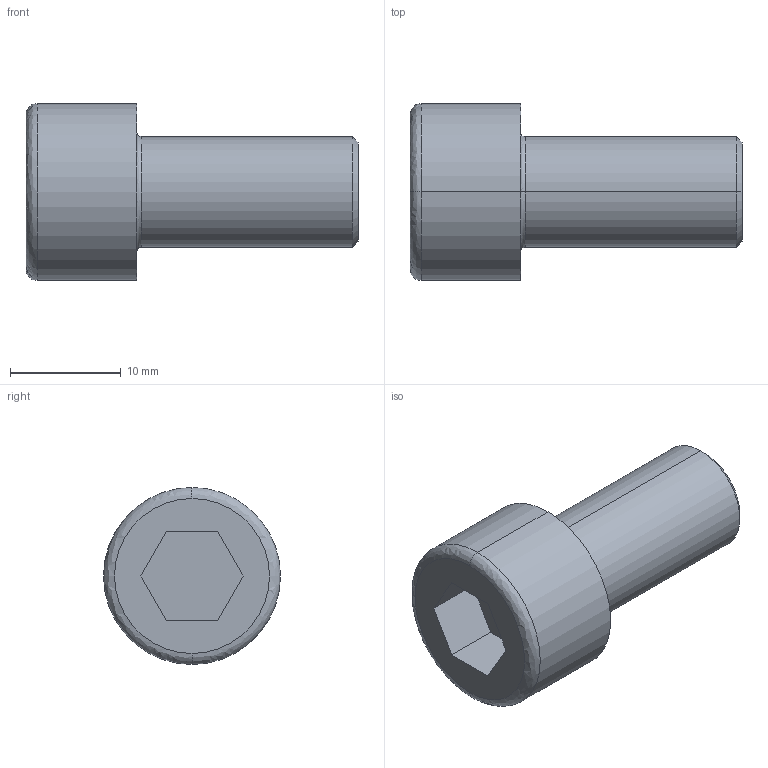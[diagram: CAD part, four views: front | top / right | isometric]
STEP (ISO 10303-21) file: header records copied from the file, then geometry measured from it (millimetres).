
FILE_DESCRIPTION (( 'STEP AP203' ), '1' );
FILE_NAME ('036 Vis CHc M10x20.STEP', '2021-10-27T18:29:15', ( '' ), ( '' ), 'SwSTEP 2.0', 'SolidWorks 2019', '' );
FILE_SCHEMA (( 'CONFIG_CONTROL_DESIGN' ));
Length unit declared in the file: millimetre
Products named in the file (1): 036 Vis CHc M10x20
Bounding box: 30 x 16 x 16 mm (x, y, z)
Volume: 3275.7 mm3; surface area: 2253.5 mm2
Topology: 1 solids, 1 shells, 27 faces, 60 edges, 38 vertices
Faces by surface type: plane 13, cylinder 8, bspline 4, cone 2
Entity records: 873 total; most frequent: CARTESIAN_POINT 186, DIRECTION 134, ORIENTED_EDGE 120, EDGE_CURVE 60, AXIS2_PLACEMENT_3D 50, VERTEX_POINT 38, VECTOR 34, LINE 34
